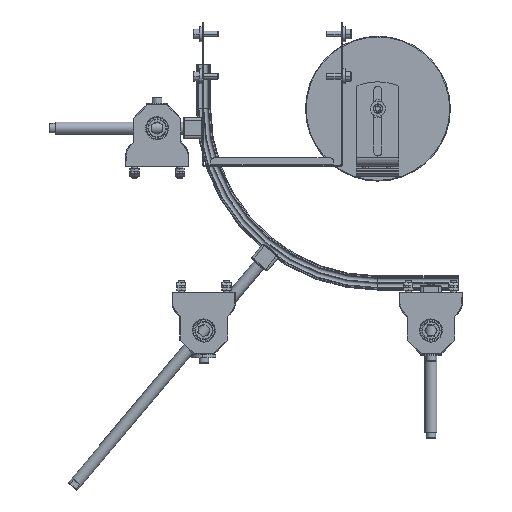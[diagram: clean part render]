
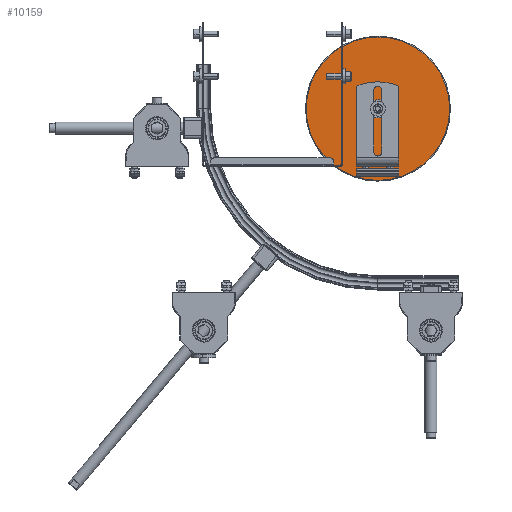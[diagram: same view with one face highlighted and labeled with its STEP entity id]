
A CAD part, front view. The second image highlights one B-rep face of the part: STEP entity #10159.
In plain terms, the highlighted planar face has unit normal (0, -1, 0) as drawn and (0, 1, 0) by its records, which use the part's own axes.
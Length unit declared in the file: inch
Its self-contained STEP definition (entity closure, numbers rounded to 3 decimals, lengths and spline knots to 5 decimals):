
#1657 = AXIS2_PLACEMENT_3D ( 'NONE', #19155, #13615, #26489 ) ;
#1940 = ORIENTED_EDGE ( 'NONE', *, *, #34660, .F. ) ;
#2600 = EDGE_CURVE ( 'NONE', #13979, #27468, #38033, .T. ) ;
#3866 = VERTEX_POINT ( 'NONE', #6259 ) ;
#4652 = CARTESIAN_POINT ( 'NONE',  ( 0., 0.405, 0. ) ) ;
#4706 = CARTESIAN_POINT ( 'NONE',  ( 0., 0.405, 0. ) ) ;
#4802 = AXIS2_PLACEMENT_3D ( 'NONE', #4652, #40329, #30870 ) ;
#5279 = PLANE ( 'NONE',  #10540 ) ;
#5600 = CIRCLE ( 'NONE', #32876, 2.97 ) ;
#5966 = CARTESIAN_POINT ( 'NONE',  ( 0., 0.405, 0.2525 ) ) ;
#6259 = CARTESIAN_POINT ( 'NONE',  ( 0., 0.405, -0.2525 ) ) ;
#8717 = DIRECTION ( 'NONE',  ( 0., 0., 1. ) ) ;
#10159 = ADVANCED_FACE ( 'NONE', ( #16043, #41247 ), #5279, .T. ) ;
#10540 = AXIS2_PLACEMENT_3D ( 'NONE', #4706, #31061, #27933 ) ;
#12056 = CIRCLE ( 'NONE', #1657, 0.2525 ) ;
#13615 = DIRECTION ( 'NONE',  ( 0., 1., 0. ) ) ;
#13979 = VERTEX_POINT ( 'NONE', #38082 ) ;
#14149 = AXIS2_PLACEMENT_3D ( 'NONE', #38658, #15253, #35358 ) ;
#15253 = DIRECTION ( 'NONE',  ( 0., 1., 0. ) ) ;
#16043 = FACE_OUTER_BOUND ( 'NONE', #23364, .T. ) ;
#16259 = EDGE_CURVE ( 'NONE', #27468, #13979, #5600, .T. ) ;
#19155 = CARTESIAN_POINT ( 'NONE',  ( 0., 0.405, 0. ) ) ;
#19819 = CARTESIAN_POINT ( 'NONE',  ( 0., 0.405, 2.97 ) ) ;
#20153 = CIRCLE ( 'NONE', #14149, 0.2525 ) ;
#22328 = DIRECTION ( 'NONE',  ( 0., 1., 0. ) ) ;
#23364 = EDGE_LOOP ( 'NONE', ( #41013, #26462 ) ) ;
#23414 = ORIENTED_EDGE ( 'NONE', *, *, #37907, .F. ) ;
#26462 = ORIENTED_EDGE ( 'NONE', *, *, #2600, .T. ) ;
#26489 = DIRECTION ( 'NONE',  ( 0., 0., 1. ) ) ;
#27468 = VERTEX_POINT ( 'NONE', #19819 ) ;
#27933 = DIRECTION ( 'NONE',  ( 0., 0., 1. ) ) ;
#29051 = CARTESIAN_POINT ( 'NONE',  ( 0., 0.405, 0. ) ) ;
#30870 = DIRECTION ( 'NONE',  ( 0., 0., 1. ) ) ;
#31030 = VERTEX_POINT ( 'NONE', #5966 ) ;
#31061 = DIRECTION ( 'NONE',  ( 0., 1., 0. ) ) ;
#32034 = EDGE_LOOP ( 'NONE', ( #23414, #1940 ) ) ;
#32876 = AXIS2_PLACEMENT_3D ( 'NONE', #29051, #22328, #8717 ) ;
#34660 = EDGE_CURVE ( 'NONE', #3866, #31030, #12056, .T. ) ;
#35358 = DIRECTION ( 'NONE',  ( 0., 0., 1. ) ) ;
#37907 = EDGE_CURVE ( 'NONE', #31030, #3866, #20153, .T. ) ;
#38033 = CIRCLE ( 'NONE', #4802, 2.97 ) ;
#38082 = CARTESIAN_POINT ( 'NONE',  ( 0., 0.405, -2.97 ) ) ;
#38658 = CARTESIAN_POINT ( 'NONE',  ( 0., 0.405, 0. ) ) ;
#40329 = DIRECTION ( 'NONE',  ( 0., 1., 0. ) ) ;
#41013 = ORIENTED_EDGE ( 'NONE', *, *, #16259, .T. ) ;
#41247 = FACE_BOUND ( 'NONE', #32034, .T. ) ;
